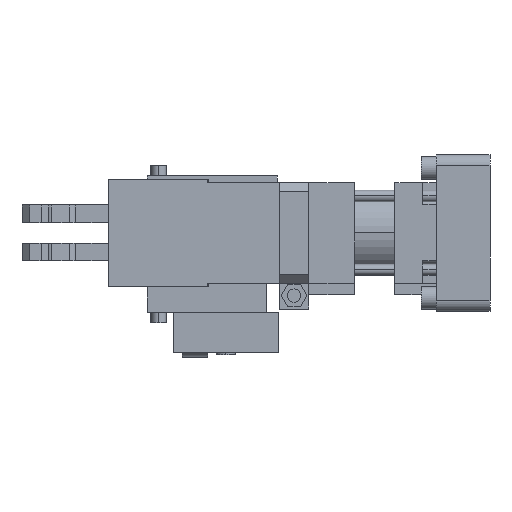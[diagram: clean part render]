
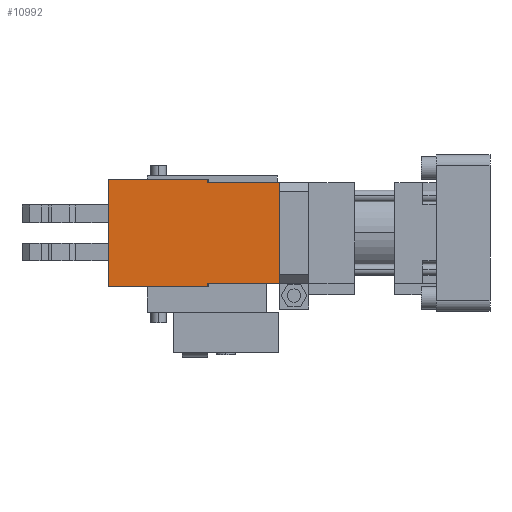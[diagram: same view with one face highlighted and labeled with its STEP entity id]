
A CAD part, left-side view. The second image highlights one B-rep face of the part: STEP entity #10992.
In plain terms, the highlighted planar face has unit normal (-1, 0, 0).
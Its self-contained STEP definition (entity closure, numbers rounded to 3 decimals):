
#267 = EDGE_CURVE ( 'NONE', #2526, #6382, #4772, .T. ) ;
#614 = ORIENTED_EDGE ( 'NONE', *, *, #10222, .T. ) ;
#1214 = LINE ( 'NONE', #11693, #4477 ) ;
#1647 = LINE ( 'NONE', #5390, #14546 ) ;
#1685 = VECTOR ( 'NONE', #2792, 1000. ) ;
#2266 = CARTESIAN_POINT ( 'NONE',  ( -22.5, 22., 24. ) ) ;
#2327 = CARTESIAN_POINT ( 'NONE',  ( -22.5, -40., -22.5 ) ) ;
#2526 = VERTEX_POINT ( 'NONE', #10698 ) ;
#2726 = LINE ( 'NONE', #2266, #15659 ) ;
#2792 = DIRECTION ( 'NONE',  ( 0., -1., 0. ) ) ;
#2937 = DIRECTION ( 'NONE',  ( 0., 0., -1. ) ) ;
#2942 = AXIS2_PLACEMENT_3D ( 'NONE', #5519, #6805, #15541 ) ;
#3206 = CARTESIAN_POINT ( 'NONE',  ( -22.5, -8., -24. ) ) ;
#3248 = CARTESIAN_POINT ( 'NONE',  ( -22.5, 22., -22.5 ) ) ;
#3265 = CARTESIAN_POINT ( 'NONE',  ( -22.5, 36.5, -24. ) ) ;
#3417 = ORIENTED_EDGE ( 'NONE', *, *, #267, .T. ) ;
#3476 = EDGE_CURVE ( 'NONE', #14262, #11532, #12753, .T. ) ;
#3528 = DIRECTION ( 'NONE',  ( 0., -1., 0. ) ) ;
#3999 = DIRECTION ( 'NONE',  ( 0., 0., 1. ) ) ;
#4045 = EDGE_CURVE ( 'NONE', #9173, #14262, #1647, .T. ) ;
#4477 = VECTOR ( 'NONE', #2937, 1000. ) ;
#4772 = LINE ( 'NONE', #3248, #14423 ) ;
#4920 = VERTEX_POINT ( 'NONE', #12008 ) ;
#4962 = LINE ( 'NONE', #15258, #1685 ) ;
#5256 = CARTESIAN_POINT ( 'NONE',  ( -22.5, -8., -24. ) ) ;
#5390 = CARTESIAN_POINT ( 'NONE',  ( -22.5, -8., 24. ) ) ;
#5392 = CARTESIAN_POINT ( 'NONE',  ( -22.5, -40., 22.5 ) ) ;
#5519 = CARTESIAN_POINT ( 'NONE',  ( -22.5, 22., 12.5 ) ) ;
#5791 = EDGE_LOOP ( 'NONE', ( #14887, #10617, #7989, #614, #3417, #6863, #8550, #6478 ) ) ;
#6382 = VERTEX_POINT ( 'NONE', #2327 ) ;
#6478 = ORIENTED_EDGE ( 'NONE', *, *, #4045, .F. ) ;
#6805 = DIRECTION ( 'NONE',  ( 1., 0., 0. ) ) ;
#6863 = ORIENTED_EDGE ( 'NONE', *, *, #11521, .F. ) ;
#6914 = CARTESIAN_POINT ( 'NONE',  ( -22.5, -8., 22.5 ) ) ;
#7052 = DIRECTION ( 'NONE',  ( 0., 0., -1. ) ) ;
#7910 = VERTEX_POINT ( 'NONE', #3265 ) ;
#7989 = ORIENTED_EDGE ( 'NONE', *, *, #14095, .T. ) ;
#8085 = VECTOR ( 'NONE', #3999, 1000. ) ;
#8550 = ORIENTED_EDGE ( 'NONE', *, *, #3476, .F. ) ;
#8627 = LINE ( 'NONE', #5256, #8085 ) ;
#8766 = CARTESIAN_POINT ( 'NONE',  ( -22.5, 36.5, 24. ) ) ;
#8814 = FACE_OUTER_BOUND ( 'NONE', #5791, .T. ) ;
#8999 = VECTOR ( 'NONE', #11136, 1000. ) ;
#9173 = VERTEX_POINT ( 'NONE', #10900 ) ;
#10222 = EDGE_CURVE ( 'NONE', #11656, #2526, #8627, .T. ) ;
#10617 = ORIENTED_EDGE ( 'NONE', *, *, #14610, .F. ) ;
#10664 = DIRECTION ( 'NONE',  ( 0., -1., 0. ) ) ;
#10698 = CARTESIAN_POINT ( 'NONE',  ( -22.5, -8., -22.5 ) ) ;
#10900 = CARTESIAN_POINT ( 'NONE',  ( -22.5, -8., 24. ) ) ;
#10992 = ADVANCED_FACE ( 'NONE', ( #8814 ), #13029, .F. ) ;
#11136 = DIRECTION ( 'NONE',  ( 0., -1., 0. ) ) ;
#11521 = EDGE_CURVE ( 'NONE', #11532, #6382, #1214, .T. ) ;
#11532 = VERTEX_POINT ( 'NONE', #5392 ) ;
#11656 = VERTEX_POINT ( 'NONE', #3206 ) ;
#11693 = CARTESIAN_POINT ( 'NONE',  ( -22.5, -40., 12.5 ) ) ;
#11794 = EDGE_CURVE ( 'NONE', #4920, #9173, #2726, .T. ) ;
#12008 = CARTESIAN_POINT ( 'NONE',  ( -22.5, 36.5, 24. ) ) ;
#12753 = LINE ( 'NONE', #13655, #8999 ) ;
#13029 = PLANE ( 'NONE',  #2942 ) ;
#13655 = CARTESIAN_POINT ( 'NONE',  ( -22.5, 22., 22.5 ) ) ;
#13797 = VECTOR ( 'NONE', #13838, 1000. ) ;
#13838 = DIRECTION ( 'NONE',  ( 0., 0., 1. ) ) ;
#14095 = EDGE_CURVE ( 'NONE', #7910, #11656, #4962, .T. ) ;
#14192 = LINE ( 'NONE', #8766, #13797 ) ;
#14262 = VERTEX_POINT ( 'NONE', #6914 ) ;
#14423 = VECTOR ( 'NONE', #10664, 1000. ) ;
#14546 = VECTOR ( 'NONE', #7052, 1000. ) ;
#14610 = EDGE_CURVE ( 'NONE', #7910, #4920, #14192, .T. ) ;
#14887 = ORIENTED_EDGE ( 'NONE', *, *, #11794, .F. ) ;
#15258 = CARTESIAN_POINT ( 'NONE',  ( -22.5, 22., -24. ) ) ;
#15541 = DIRECTION ( 'NONE',  ( 0., 1., 0. ) ) ;
#15659 = VECTOR ( 'NONE', #3528, 1000. ) ;
